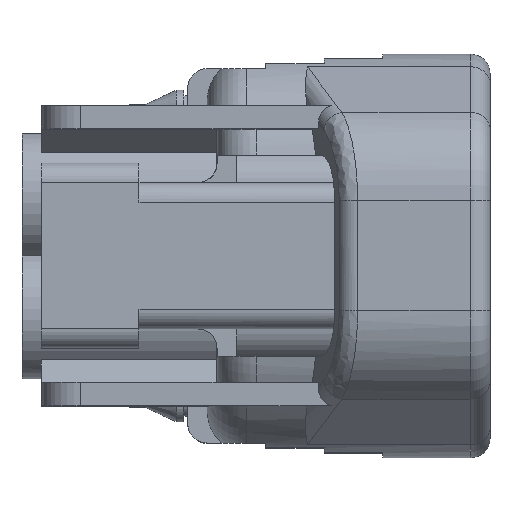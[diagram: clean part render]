
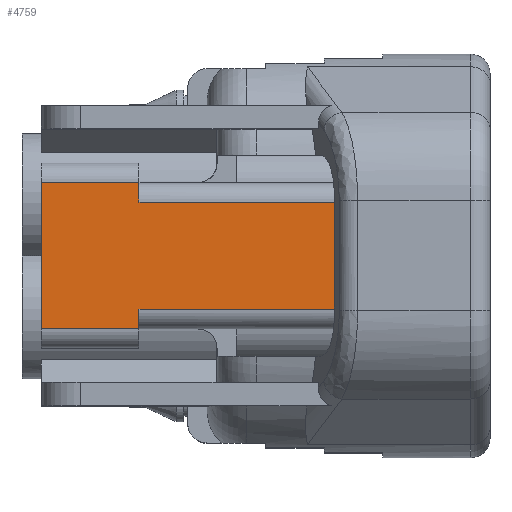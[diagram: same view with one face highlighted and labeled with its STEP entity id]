
A CAD part, top view. The second image highlights one B-rep face of the part: STEP entity #4759.
In plain terms, the highlighted planar face has unit normal (0, 0, 1).
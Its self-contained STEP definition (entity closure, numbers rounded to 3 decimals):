
#3282=CARTESIAN_POINT('Vertex',(-23.,-0.75,10.05)) ;
#3285=CARTESIAN_POINT('Line Origine',(-23.,3.,10.05)) ;
#3289=CARTESIAN_POINT('Vertex',(-23.,6.75,10.05)) ;
#4468=CARTESIAN_POINT('Vertex',(-18.,6.75,10.05)) ;
#4471=CARTESIAN_POINT('Line Origine',(-14.75,6.75,10.05)) ;
#4492=CARTESIAN_POINT('Vertex',(-18.,-0.75,10.05)) ;
#4495=CARTESIAN_POINT('Line Origine',(-14.75,-0.75,10.05)) ;
#4533=CARTESIAN_POINT('Line Origine',(-18.,6.25,10.05)) ;
#4537=CARTESIAN_POINT('Vertex',(-18.,5.75,10.05)) ;
#4575=CARTESIAN_POINT('Vertex',(-18.,0.25,10.05)) ;
#4578=CARTESIAN_POINT('Line Origine',(-18.,-0.25,10.05)) ;
#4712=CARTESIAN_POINT('Line Origine',(-12.25,5.75,10.05)) ;
#4716=CARTESIAN_POINT('Vertex',(-6.5,5.75,10.05)) ;
#4732=CARTESIAN_POINT('Axis2P3D Location',(-6.5,3.,10.05)) ;
#4737=CARTESIAN_POINT('Line Origine',(-12.25,0.25,10.05)) ;
#4741=CARTESIAN_POINT('Vertex',(-6.5,0.25,10.05)) ;
#4744=CARTESIAN_POINT('Line Origine',(-6.5,3.,10.05)) ;
#3286=DIRECTION('Vector Direction',(0.,1.,0.)) ;
#4472=DIRECTION('Vector Direction',(1.,0.,0.)) ;
#4496=DIRECTION('Vector Direction',(-1.,0.,0.)) ;
#4534=DIRECTION('Vector Direction',(0.,-1.,0.)) ;
#4579=DIRECTION('Vector Direction',(0.,-1.,0.)) ;
#4713=DIRECTION('Vector Direction',(-1.,0.,0.)) ;
#4733=DIRECTION('Axis2P3D Direction',(0.,0.,-1.)) ;
#4734=DIRECTION('Axis2P3D XDirection',(-1.,0.,0.)) ;
#4738=DIRECTION('Vector Direction',(-1.,0.,0.)) ;
#4745=DIRECTION('Vector Direction',(0.,1.,0.)) ;
#4735=AXIS2_PLACEMENT_3D('Plane Axis2P3D',#4732,#4733,#4734) ;
#4750=ORIENTED_EDGE('',*,*,#4475,.F.) ;
#4751=ORIENTED_EDGE('',*,*,#3291,.F.) ;
#4752=ORIENTED_EDGE('',*,*,#4499,.T.) ;
#4753=ORIENTED_EDGE('',*,*,#4582,.F.) ;
#4754=ORIENTED_EDGE('',*,*,#4743,.F.) ;
#4755=ORIENTED_EDGE('',*,*,#4748,.T.) ;
#4756=ORIENTED_EDGE('',*,*,#4718,.T.) ;
#4757=ORIENTED_EDGE('',*,*,#4539,.F.) ;
#3287=VECTOR('Line Direction',#3286,1.) ;
#4473=VECTOR('Line Direction',#4472,1.) ;
#4497=VECTOR('Line Direction',#4496,1.) ;
#4535=VECTOR('Line Direction',#4534,1.) ;
#4580=VECTOR('Line Direction',#4579,1.) ;
#4714=VECTOR('Line Direction',#4713,1.) ;
#4739=VECTOR('Line Direction',#4738,1.) ;
#4746=VECTOR('Line Direction',#4745,1.) ;
#4759=ADVANCED_FACE('\X2\FF8AFF9FFF70FF82\X0\ \X2\FF8EFF9EFF83FF9EFF68FF70\X0\',(#4758),#4736,.F.) ;
#3291=EDGE_CURVE('',#3283,#3290,#3288,.T.) ;
#4475=EDGE_CURVE('',#3290,#4469,#4474,.T.) ;
#4499=EDGE_CURVE('',#3283,#4493,#4498,.F.) ;
#4539=EDGE_CURVE('',#4469,#4538,#4536,.T.) ;
#4582=EDGE_CURVE('',#4576,#4493,#4581,.T.) ;
#4718=EDGE_CURVE('',#4717,#4538,#4715,.T.) ;
#4743=EDGE_CURVE('',#4742,#4576,#4740,.T.) ;
#4748=EDGE_CURVE('',#4742,#4717,#4747,.T.) ;
#4749=EDGE_LOOP('',(#4750,#4751,#4752,#4753,#4754,#4755,#4756,#4757)) ;
#4758=FACE_OUTER_BOUND('',#4749,.T.) ;
#3288=LINE('Line',#3285,#3287) ;
#4474=LINE('Line',#4471,#4473) ;
#4498=LINE('Line',#4495,#4497) ;
#4536=LINE('Line',#4533,#4535) ;
#4581=LINE('Line',#4578,#4580) ;
#4715=LINE('Line',#4712,#4714) ;
#4740=LINE('Line',#4737,#4739) ;
#4747=LINE('Line',#4744,#4746) ;
#4736=PLANE('',#4735) ;
#3283=VERTEX_POINT('',#3282) ;
#3290=VERTEX_POINT('',#3289) ;
#4469=VERTEX_POINT('',#4468) ;
#4493=VERTEX_POINT('',#4492) ;
#4538=VERTEX_POINT('',#4537) ;
#4576=VERTEX_POINT('',#4575) ;
#4717=VERTEX_POINT('',#4716) ;
#4742=VERTEX_POINT('',#4741) ;
